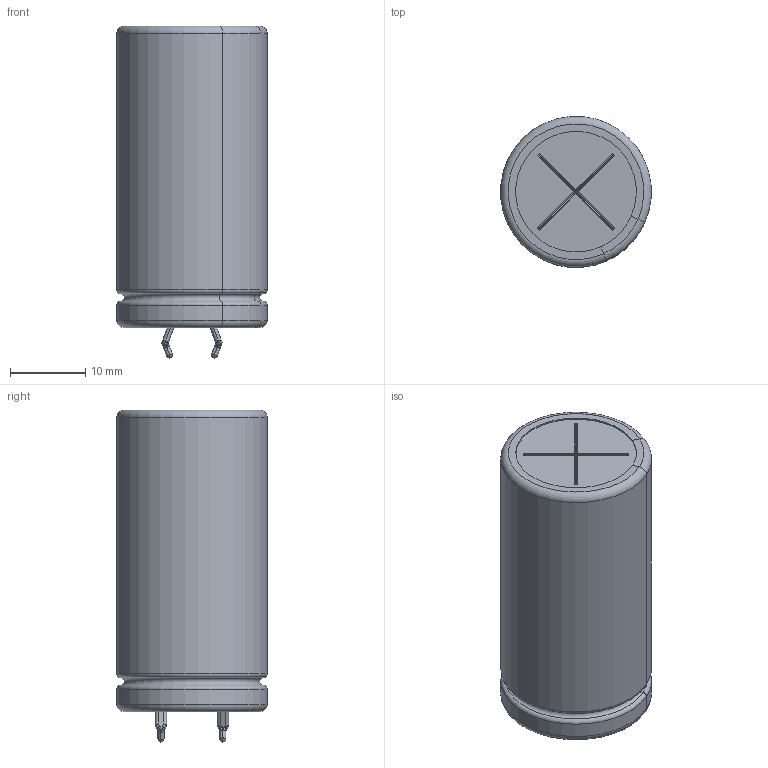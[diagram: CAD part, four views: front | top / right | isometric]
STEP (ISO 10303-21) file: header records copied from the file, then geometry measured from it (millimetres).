
FILE_DESCRIPTION(/* description */ (''),/* implementation_level */ '2;1');
FILE_NAME(/* name */ '20x40_Snap.stp',/* time_stamp */ '2017-09-11T13:52:32+09:00',/* author */ (''),/* organization */ (''),/* preprocessor_version */ 'ST-DEVELOPER v16',/* originating_system */ 'SIEMENS PLM Software NX 11.0',/* authorisation */ '');
FILE_SCHEMA (('AUTOMOTIVE_DESIGN { 1 0 10303 214 3 1 1 1 }'));
Length unit declared in the file: millimetre
Products named in the file (1): 20x40_Snap_0
Bounding box: 19.94 x 19.94 x 44.02 mm (x, y, z)
Volume: 12410.6 mm3; surface area: 8692.5 mm2
Topology: 5 solids, 5 shells, 208 faces, 523 edges, 310 vertices
Faces by surface type: cylinder 76, plane 75, torus 25, sphere 20, bspline 12
Full cylindrical faces by diameter (mm): 4 x2, 19.6 x2
Entity records: 6789 total; most frequent: CARTESIAN_POINT 1265, DIRECTION 1128, ORIENTED_EDGE 988, EDGE_CURVE 494, AXIS2_PLACEMENT_3D 437, VERTEX_POINT 310, LINE 254, VECTOR 254
